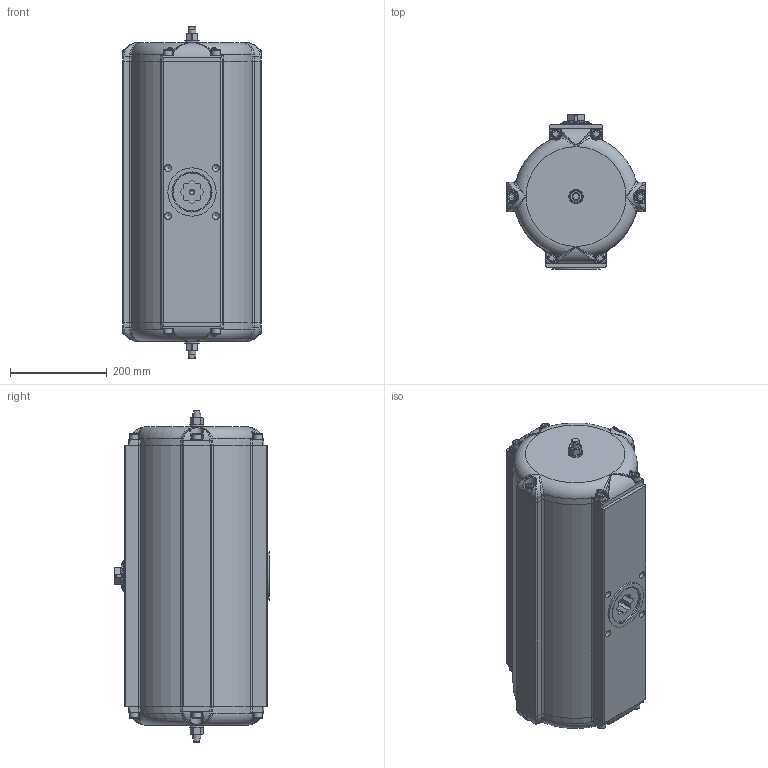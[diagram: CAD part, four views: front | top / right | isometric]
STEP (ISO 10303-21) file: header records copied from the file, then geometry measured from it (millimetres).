
FILE_DESCRIPTION((''),'2;1');
FILE_NAME('C:\Dokumente und Einstellungen\ko-p\Desktop\SAD_42-180°_BR03.stp','2011-02-03T11:12:57',('war'),(''),'Autodesk Inventor 2010','Autodesk Inventor 2010','');
FILE_SCHEMA(('AUTOMOTIVE_DESIGN { 1 0 10303 214 1 1 1 1 }'));
Length unit declared in the file: millimetre
Products named in the file (1): ENG-049568_Konturvereinfachung_1
Bounding box: 288 x 320 x 688 mm (x, y, z)
Surface area: 940788.8 mm2 (no closed solid volume)
Topology: 0 solids, 34 shells, 494 faces, 1754 edges, 1245 vertices
Faces by surface type: plane 234, bspline 127, cylinder 86, cone 24, torus 23
Full cylindrical faces by diameter (mm): 16 x2, 18 x12, 29.7 x2, 37 x1, 49.8 x1, 100 x1, 236 x1
Entity records: 24377 total; most frequent: CARTESIAN_POINT 10423, ORIENTED_EDGE 2561, DIRECTION 2451, EDGE_CURVE 1644, VERTEX_POINT 1211, AXIS2_PLACEMENT_3D 891, VECTOR 669, LINE 669
